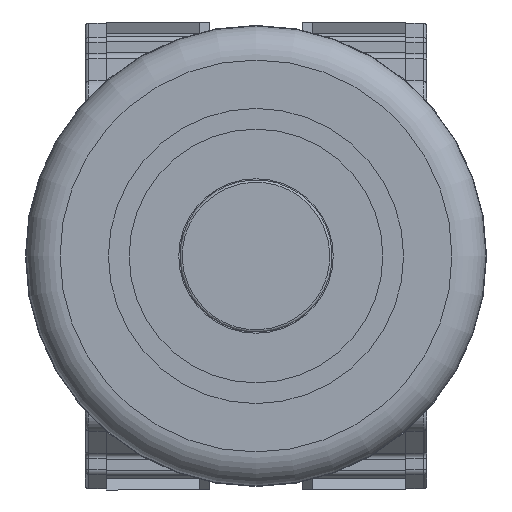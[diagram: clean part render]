
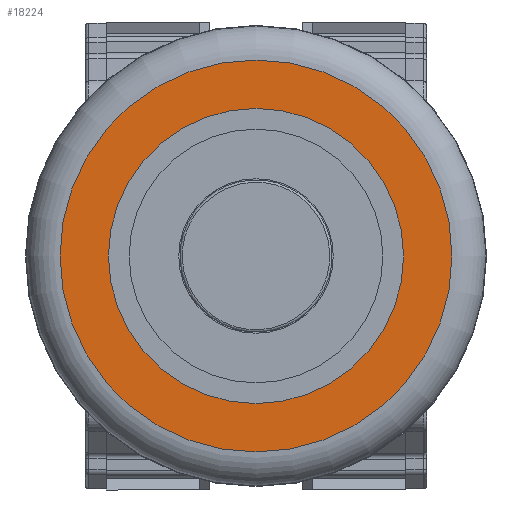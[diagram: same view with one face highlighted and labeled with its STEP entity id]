
A CAD part, left-side view. The second image highlights one B-rep face of the part: STEP entity #18224.
In plain terms, the highlighted planar face has unit normal (-1, 0, 0).
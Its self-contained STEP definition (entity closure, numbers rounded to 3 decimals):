
#18113=CARTESIAN_POINT('',(-35.,0.,-17.));
#18114=VERTEX_POINT('',#18113);
#18115=CARTESIAN_POINT('',(-35.,0.,0.));
#18116=DIRECTION('',(1.0,0.0,0.0));
#18117=DIRECTION('',(0.0,0.0,1.0));
#18118=AXIS2_PLACEMENT_3D('',#18115,#18116,#18117);
#18119=CIRCLE('',#18118,17.0);
#18120=EDGE_CURVE('',#18114,#18114,#18119,.T.);
#18205=CARTESIAN_POINT('',(-35.,0.,-13.35));
#18206=DIRECTION('',(-1.0,0.0,0.0));
#18207=DIRECTION('',(0.0,1.0,0.0));
#18208=AXIS2_PLACEMENT_3D('',#18205,#18206,#18207);
#18209=PLANE('',#18208);
#18210=ORIENTED_EDGE('',*,*,#18120,.F.);
#18211=EDGE_LOOP('',(#18210));
#18212=FACE_OUTER_BOUND('',#18211,.T.);
#18213=CARTESIAN_POINT('',(-35.,0.,-12.8));
#18214=VERTEX_POINT('',#18213);
#18215=CARTESIAN_POINT('',(-35.,0.,0.));
#18216=DIRECTION('',(1.0,0.0,0.0));
#18217=DIRECTION('',(0.0,0.0,1.0));
#18218=AXIS2_PLACEMENT_3D('',#18215,#18216,#18217);
#18219=CIRCLE('',#18218,12.8);
#18220=EDGE_CURVE('',#18214,#18214,#18219,.T.);
#18221=ORIENTED_EDGE('',*,*,#18220,.T.);
#18222=EDGE_LOOP('',(#18221));
#18223=FACE_BOUND('',#18222,.T.);
#18224=ADVANCED_FACE('',(#18212,#18223),#18209,.T.);
